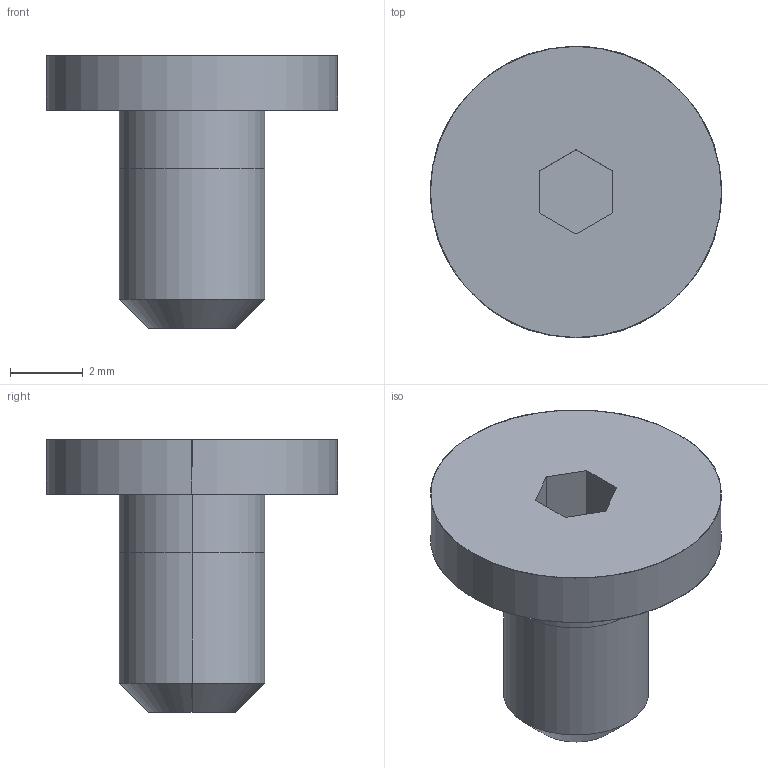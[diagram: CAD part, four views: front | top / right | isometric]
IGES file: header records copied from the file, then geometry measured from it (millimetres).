
Global section: file name: E:\UnigraphicsGraphicData\MISUMI_PRESS-PARTS\IGES\3d_cbss4-6_03487_r00.igs; native system: NX V5.0; preprocessor: UGS NX IGES V5.0; author: MISUMI; date: 20110105.160201; units: millimetre
Bounding box: 8 x 8 x 7.5 mm (x, y, z)
Surface area: 224.5 mm2 (no closed solid volume)
Topology: 0 solids, 0 shells, 18 faces, 100 edges, 100 vertices
Faces by surface type: bspline 18
